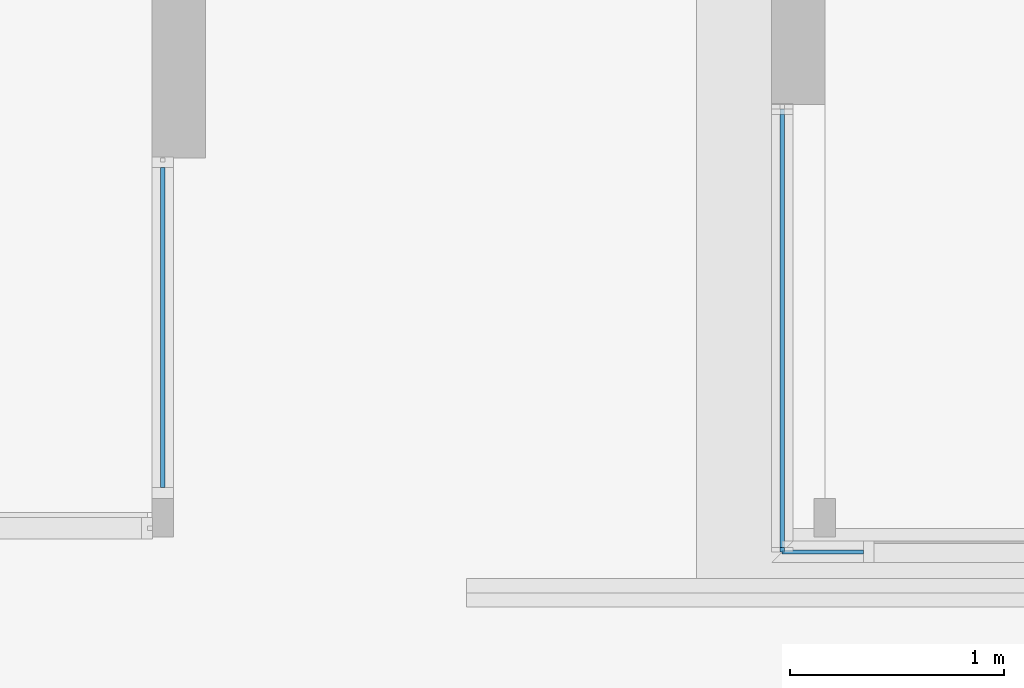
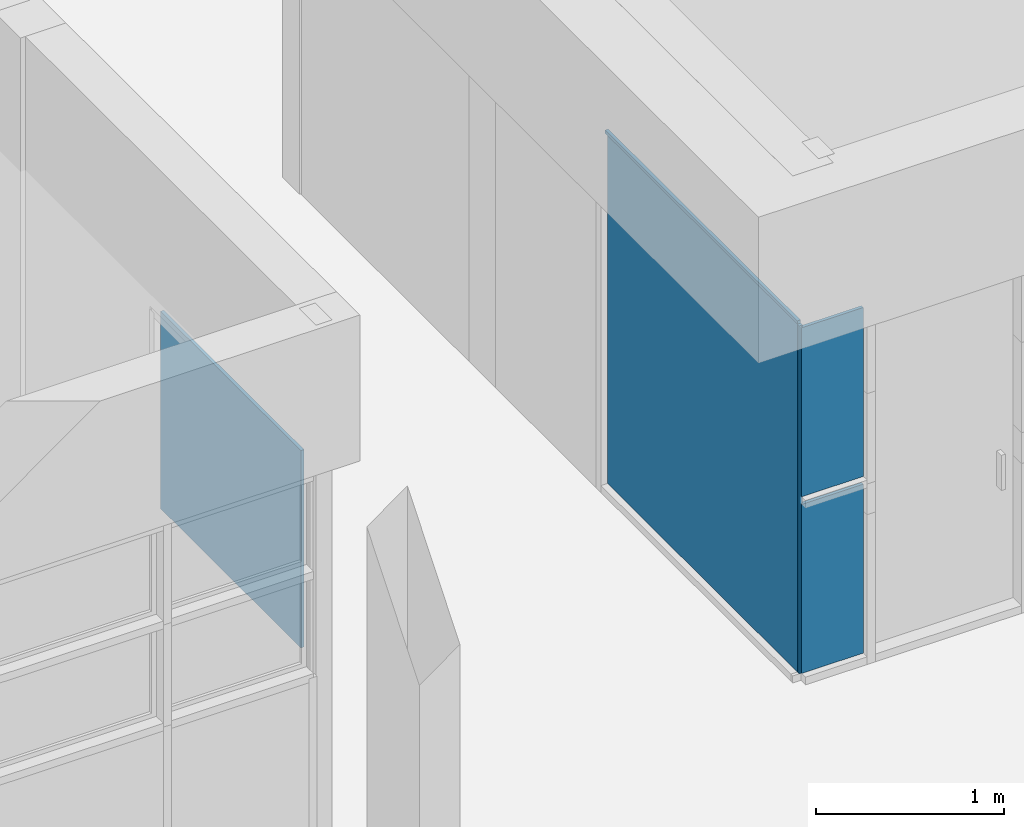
# One storey, part 30 of 117: 6 plates, 3 elements without a shape of their own.
"""IFC4 building model written with IfcOpenShell, lengths in metres."""

import ifcopenshell
import ifcopenshell.guid

model = None  # the IFC model being written
_history = None  # IfcOwnerHistory: only IFC2X3 demands one
_inside = {}  # id of a spatial element -> (the spatial element, [elements in it])
_under = {}  # id of a project, library or spatial element -> (it, [spatial elements below it])
_declared = {}  # id of a project -> (the project, [libraries it declares])
_typed = {}  # id of a type object -> (the type object, [elements of that type])
_made_of = {}  # id of a material, layer set ... -> (it, [elements and type objects made of it])


def new_model(schema):
    """Start an empty IFC model of exactly this schema.

    Asked for "IFC4X3", IfcOpenShell would pick the latest addendum, in which some entities
    have other attributes; the version numbers below select the first issue.
    IFC2X3 requires an IfcOwnerHistory on every rooted entity: one is made here for all.
    """
    global model, _history
    if schema == "IFC4X3":
        model = ifcopenshell.file(schema_version=(4, 3, 0, 0))
    else:
        model = ifcopenshell.file(schema=schema)
    _inside.clear()
    _under.clear()
    _declared.clear()
    _typed.clear()
    _made_of.clear()
    _history = None
    if model.schema == "IFC2X3":
        org = make("IfcOrganization", Name="unknown")
        user = make(
            "IfcPersonAndOrganization",
            ThePerson=make("IfcPerson", FamilyName="unknown"),
            TheOrganization=org,
        )
        app = make(
            "IfcApplication",
            ApplicationDeveloper=org,
            Version="unknown",
            ApplicationFullName="unknown",
            ApplicationIdentifier="unknown",
        )
        _history = make(
            "IfcOwnerHistory",
            OwningUser=user,
            OwningApplication=app,
            ChangeAction="ADDED",
            CreationDate=0,
        )
    return model


def make(cls, **values):
    """One entity of the class cls with the attributes given. An attribute that is None is left unset."""
    return model.create_entity(
        cls, **{name: value for name, value in values.items() if value is not None}
    )


def entity(cls, *values):
    """Any entity or typed value of the class cls, its attributes in the order of the schema. None: left unset."""
    e = model.create_entity(cls)
    for i, value in enumerate(values):
        if value is not None:
            e[i] = value
    return e


def rooted(cls, **values):
    """An entity with a GlobalId (a new one), such as an element, a storey or a relation."""
    return make(cls, GlobalId=ifcopenshell.guid.new(), OwnerHistory=_history, **values)


def si_unit(unit_type, name, prefix=None):
    """IfcSIUnit, for example si_unit("LENGTHUNIT", "METRE", prefix="MILLI")."""
    return make("IfcSIUnit", UnitType=unit_type, Prefix=prefix, Name=name)


def converted_unit(unit_type, name, factor, base, dimensions=None, offset=None):
    """IfcConversionBasedUnit, such as the inch: factor (a typed value) times the base unit."""
    return make(
        "IfcConversionBasedUnit"
        if offset is None
        else "IfcConversionBasedUnitWithOffset",
        ConversionOffset=offset,
        Dimensions=None
        if dimensions is None
        else entity("IfcDimensionalExponents", *dimensions),
        UnitType=unit_type,
        Name=name,
        ConversionFactor=make(
            "IfcMeasureWithUnit", ValueComponent=factor, UnitComponent=base
        ),
    )


def derived_unit(unit_type, elements):
    """IfcDerivedUnit: a product of units, each with its exponent."""
    return make(
        "IfcDerivedUnit",
        Elements=[
            make("IfcDerivedUnitElement", Unit=unit, Exponent=power)
            for unit, power in elements
        ],
        UnitType=unit_type,
    )


def assignment(units):
    """IfcUnitAssignment: the units of a project."""
    return None if units is None else make("IfcUnitAssignment", Units=units)


def point(xyz):
    """IfcCartesianPoint."""
    return None if xyz is None else make("IfcCartesianPoint", Coordinates=xyz)


def direction(xyz):
    """IfcDirection."""
    return None if xyz is None else make("IfcDirection", DirectionRatios=xyz)


def frame(location, z_axis=None, x_axis=None):
    """IfcAxis2Placement3D, a coordinate frame: its origin and axes. An axis left out is left unset."""
    return make(
        "IfcAxis2Placement3D",
        Location=point(location),
        Axis=direction(z_axis),
        RefDirection=direction(x_axis),
    )


def origin():
    """The frame at (0, 0, 0) with its axes left unset."""
    return frame((0.0, 0.0, 0.0))


def place(relative_to, where):
    """IfcLocalPlacement: puts the frame where relative to a parent placement (None: the world)."""
    return make(
        "IfcLocalPlacement", PlacementRelTo=relative_to, RelativePlacement=where
    )


def context(
    kind, dimensions, precision=None, world=None, true_north=None, identifier=None
):
    """IfcGeometricRepresentationContext, for example the 3D "Model" context."""
    return make(
        "IfcGeometricRepresentationContext",
        ContextIdentifier=identifier,
        ContextType=kind,
        CoordinateSpaceDimension=dimensions,
        Precision=precision,
        WorldCoordinateSystem=world,
        TrueNorth=true_north,
    )


def subcontext(parent, identifier, kind, view, scale=None):
    """IfcGeometricRepresentationSubContext, for example "Body" below "Model"."""
    return make(
        "IfcGeometricRepresentationSubContext",
        ContextIdentifier=identifier,
        ContextType=kind,
        ParentContext=parent,
        TargetScale=scale,
        TargetView=view,
    )


def project(units=None, contexts=None):
    """IfcProject with its units and contexts."""
    return rooted(
        "IfcProject",
        Name="project",
        RepresentationContexts=contexts,
        UnitsInContext=assignment(units),
    )


def spatial(cls, under=None, at=None, **own):
    """A site, building, storey or space (cls), placed at a placement, below another one or the project."""
    s = rooted(cls, ObjectPlacement=at, **own)
    if under is not None:
        _under.setdefault(under.id(), (under, []))[1].append(s)
    return s


def point_list(points):
    """IfcCartesianPointList2D or 3D."""
    cls = (
        "IfcCartesianPointList2D" if len(points[0]) == 2 else "IfcCartesianPointList3D"
    )
    return make(cls, CoordList=points)


def indexed_curve(points, segments=None, self_intersect=None):
    """IfcIndexedPolyCurve: lines and arcs through numbered points (the first is 1)."""
    return make(
        "IfcIndexedPolyCurve",
        Points=point_list(points),
        Segments=segments,
        SelfIntersect=self_intersect,
    )


def outline(outer, holes=None, kind="AREA"):
    """IfcArbitraryClosedProfileDef: a profile drawn as a closed curve; with holes, ...WithVoids."""
    if holes is None:
        return make("IfcArbitraryClosedProfileDef", ProfileType=kind, OuterCurve=outer)
    return make(
        "IfcArbitraryProfileDefWithVoids",
        ProfileType=kind,
        OuterCurve=outer,
        InnerCurves=holes,
    )


def extrude(swept, where, along, depth):
    """IfcExtrudedAreaSolid: the profile swept, set in the frame where, extruded along a direction by depth."""
    return make(
        "IfcExtrudedAreaSolid",
        SweptArea=swept,
        Position=where,
        ExtrudedDirection=direction(along),
        Depth=depth,
    )


def shape(context_of_items, identifier, shape_type, items):
    """IfcShapeRepresentation: the items that make up one representation, for example the "Body"."""
    return make(
        "IfcShapeRepresentation",
        ContextOfItems=context_of_items,
        RepresentationIdentifier=identifier,
        RepresentationType=shape_type,
        Items=items,
    )


def source(mapping_origin, context_of_items, identifier, shape_type, items):
    """IfcRepresentationMap: a shape defined once, which mapped items show again and again."""
    return make(
        "IfcRepresentationMap",
        MappingOrigin=mapping_origin,
        MappedRepresentation=shape(context_of_items, identifier, shape_type, items),
    )


def transform(
    local_origin,
    x_axis=None,
    y_axis=None,
    z_axis=None,
    scale=None,
    scale2=None,
    scale3=None,
    uniform=True,
):
    """IfcCartesianTransformationOperator3D, or its non-uniform kind. x_axis, y_axis, z_axis: its Axis1, 2, 3."""
    if uniform:
        return make(
            "IfcCartesianTransformationOperator3D",
            Axis1=direction(x_axis),
            Axis2=direction(y_axis),
            LocalOrigin=point(local_origin),
            Scale=scale,
            Axis3=direction(z_axis),
        )
    return make(
        "IfcCartesianTransformationOperator3DnonUniform",
        Axis1=direction(x_axis),
        Axis2=direction(y_axis),
        LocalOrigin=point(local_origin),
        Scale=scale,
        Axis3=direction(z_axis),
        Scale2=scale2,
        Scale3=scale3,
    )


def mapped(mapping_source, mapping_target):
    """IfcMappedItem: shows the shape of a source again, moved by a transform."""
    return make(
        "IfcMappedItem", MappingSource=mapping_source, MappingTarget=mapping_target
    )


def material(Name=None, Category=None):
    """IfcMaterial."""
    return make("IfcMaterial", Name=Name, Category=Category)


def made_of(thing, what):
    """Note that an element or type object is made of a material, layer set ...; save() writes the relation."""
    if what is not None:
        _made_of.setdefault(what.id(), (what, []))[1].append(thing)
    return thing


def type_object(cls, material=None, **own):
    """A type object (cls), such as IfcWallType, which elements share."""
    return made_of(rooted(cls, **own), material)


def type_shapes(of_type, sources):
    """Give a type object the sources (RepresentationMaps) that its elements show as mapped items."""
    of_type.RepresentationMaps = sources


def element(
    cls,
    number,
    at=None,
    inside=None,
    cuts=None,
    type_object=None,
    material=None,
    context=None,
    identifier="Body",
    shape_type=None,
    held_by="IfcProductDefinitionShape",
    body=None,
    shapes=None,
    **own,
):
    """One element of the class cls, such as IfcWall. Its Tag is "e" and its number.

    at: its placement. inside: the storey or other place that contains it. cuts: it is an
    opening in that element (IfcRelVoidsElement). A single representation is given by context,
    identifier, shape_type and body (its items); several are given by shapes. held_by: the class
    of the entity that holds the representations. save() writes the other relations.
    """
    e = rooted(cls, Tag="e%d" % number, ObjectPlacement=at, **own)
    if body is not None:
        shapes = [shape(context, identifier, shape_type, body)]
    if shapes is not None:
        e.Representation = make(held_by, Representations=shapes)
    if inside is not None:
        _inside.setdefault(inside.id(), (inside, []))[1].append(e)
    if cuts is not None:
        rooted(
            "IfcRelVoidsElement", RelatingBuildingElement=cuts, RelatedOpeningElement=e
        )
    if type_object is not None:
        _typed.setdefault(type_object.id(), (type_object, []))[1].append(e)
    return made_of(e, material)


def aggregate(whole, parts):
    """IfcRelAggregates: a whole, such as a stair, and the parts it consists of."""
    return rooted("IfcRelAggregates", RelatingObject=whole, RelatedObjects=parts)


def save(model, path):
    """Write the relations noted so far, then the file.

    IfcRelAggregates (storeys below a building ...), IfcRelContainedInSpatialStructure (elements
    in a storey), IfcRelDefinesByType, IfcRelAssociatesMaterial and IfcRelDeclares: one each for
    every whole, place, type object, material and project.
    """
    for whole, parts in _under.values():
        aggregate(whole, parts)
    for where, things in _inside.values():
        rooted(
            "IfcRelContainedInSpatialStructure",
            RelatedElements=things,
            RelatingStructure=where,
        )
    for kind, things in _typed.values():
        rooted("IfcRelDefinesByType", RelatedObjects=things, RelatingType=kind)
    for what, things in _made_of.values():
        rooted("IfcRelAssociatesMaterial", RelatedObjects=things, RelatingMaterial=what)
    for by, libraries in _declared.values():
        rooted("IfcRelDeclares", RelatingContext=by, RelatedDefinitions=libraries)
    model.write(path)


model = new_model("IFC4")

# Units and contexts
model_context = context("Model", 3, precision=1e-05, world=origin(), true_north=direction((6.123031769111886e-17, 1.0)))
body_context = subcontext(model_context, "Body", "Model", "MODEL_VIEW")
ifc_project = project(units=[si_unit("LENGTHUNIT", "METRE"), si_unit("AREAUNIT", "SQUARE_METRE"), si_unit("VOLUMEUNIT", "CUBIC_METRE"), converted_unit("PLANEANGLEUNIT", "DEGREE", entity("IfcRatioMeasure", 0.017453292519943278), si_unit("PLANEANGLEUNIT", "RADIAN"), dimensions=[0, 0, 0, 0, 0, 0, 0]), si_unit("MASSUNIT", "GRAM", prefix="KILO"), derived_unit("MASSDENSITYUNIT", [(si_unit("MASSUNIT", "GRAM", prefix="KILO"), 1), (si_unit("LENGTHUNIT", "METRE"), -3)]), derived_unit("MOMENTOFINERTIAUNIT", [(si_unit("LENGTHUNIT", "METRE"), 4)]), si_unit("TIMEUNIT", "SECOND"), si_unit("FREQUENCYUNIT", "HERTZ"), si_unit("THERMODYNAMICTEMPERATUREUNIT", "DEGREE_CELSIUS"), derived_unit("THERMALTRANSMITTANCEUNIT", [(si_unit("MASSUNIT", "GRAM", prefix="KILO"), 1), (si_unit("THERMODYNAMICTEMPERATUREUNIT", "KELVIN"), -1), (si_unit("TIMEUNIT", "SECOND"), -3)]), derived_unit("VOLUMETRICFLOWRATEUNIT", [(si_unit("LENGTHUNIT", "METRE"), 3), (si_unit("TIMEUNIT", "SECOND"), -1)]), derived_unit("MASSFLOWRATEUNIT", [(si_unit("MASSUNIT", "GRAM", prefix="KILO"), 1), (si_unit("TIMEUNIT", "SECOND"), -1)]), derived_unit("ROTATIONALFREQUENCYUNIT", [(si_unit("TIMEUNIT", "SECOND"), -1)]), si_unit("ELECTRICCURRENTUNIT", "AMPERE"), si_unit("ELECTRICVOLTAGEUNIT", "VOLT"), si_unit("POWERUNIT", "WATT"), si_unit("FORCEUNIT", "NEWTON", prefix="KILO"), si_unit("ILLUMINANCEUNIT", "LUX"), si_unit("LUMINOUSFLUXUNIT", "LUMEN"), si_unit("LUMINOUSINTENSITYUNIT", "CANDELA"), derived_unit("USERDEFINED", [(si_unit("MASSUNIT", "GRAM", prefix="KILO"), -1), (si_unit("LENGTHUNIT", "METRE"), -2), (si_unit("TIMEUNIT", "SECOND"), 3), (si_unit("LUMINOUSFLUXUNIT", "LUMEN"), 1)]), derived_unit("SOUNDPOWERUNIT", [(si_unit("MASSUNIT", "GRAM", prefix="KILO"), 1), (si_unit("LENGTHUNIT", "METRE"), 2), (si_unit("TIMEUNIT", "SECOND"), -3)]), derived_unit("SOUNDPRESSUREUNIT", [(si_unit("MASSUNIT", "GRAM", prefix="KILO"), 1), (si_unit("LENGTHUNIT", "METRE"), -1), (si_unit("TIMEUNIT", "SECOND"), -2)]), derived_unit("LINEARVELOCITYUNIT", [(si_unit("LENGTHUNIT", "METRE"), 1), (si_unit("TIMEUNIT", "SECOND"), -1)]), si_unit("PRESSUREUNIT", "PASCAL"), derived_unit("USERDEFINED", [(si_unit("LENGTHUNIT", "METRE"), -2), (si_unit("MASSUNIT", "GRAM", prefix="KILO"), 1), (si_unit("TIMEUNIT", "SECOND"), -2)]), derived_unit("LINEARFORCEUNIT", [(si_unit("MASSUNIT", "GRAM", prefix="KILO"), 1), (si_unit("LENGTHUNIT", "METRE"), 1), (si_unit("TIMEUNIT", "SECOND"), -2), (si_unit("LENGTHUNIT", "METRE"), -1)]), derived_unit("PLANARFORCEUNIT", [(si_unit("MASSUNIT", "GRAM", prefix="KILO"), 1), (si_unit("LENGTHUNIT", "METRE"), 1), (si_unit("TIMEUNIT", "SECOND"), -2), (si_unit("LENGTHUNIT", "METRE"), -2)])], contexts=[model_context])

# Site, building, storey
site_placement = place(None, origin())
site = spatial("IfcSite", under=ifc_project, at=site_placement, Name="Superficie", CompositionType="ELEMENT")
building_placement = place(site_placement, origin())
building = spatial("IfcBuilding", under=site, at=building_placement, CompositionType="ELEMENT")
storey_placement = place(building_placement, origin())
storey = spatial("IfcBuildingStorey", under=building, at=storey_placement, Name="Nivel 0", CompositionType="ELEMENT", Elevation=0.0)

# Curtain wall, plates
curtain_wall_type = type_object("IfcCurtainWallType", Name="Muro cortina:Muro cortina - simple", PredefinedType="NOTDEFINED")
curtain_wall_1_placement = place(storey_placement, origin())
curtain_wall_1 = element("IfcCurtainWall", 1, at=curtain_wall_1_placement, inside=storey, type_object=curtain_wall_type, Name="Muro cortina:Muro cortina - simple", ObjectType="Muro cortina:Muro cortina - simple", PredefinedType="NOTDEFINED")
ifc_material = material(Name="Cristal", Category="Vidrio")
plate_type_1 = type_object("IfcPlateType", Name="Panel de sistema:Acristalado", PredefinedType="CURTAIN_PANEL", material=ifc_material)
shared_shape_1 = source(origin(), body_context, "Body", "SweptSolid", [
    extrude(outline(indexed_curve([(-0.01, -1.012500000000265), (0.01, -1.0125000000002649), (0.01, 1.0125000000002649), (-0.01, 1.012500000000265), (-0.01, -1.012500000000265)], self_intersect=False)), frame((0.0, 0.0, 0.0), z_axis=(0.0, 0.0, 1.0), x_axis=(0.0, 1.0, 0.0)), (0.0, 0.0, 1.0), 2.2649999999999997),
])
type_shapes(plate_type_1, [shared_shape_1])
plate_1_placement = place(curtain_wall_1_placement, frame((-15.448200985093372, -0.7316707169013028, 0.04499999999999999), z_axis=(0.0, 0.0, 1.0), x_axis=(0.0, -1.0, 0.0)))
plate_1 = element("IfcPlate", 2, at=plate_1_placement, type_object=plate_type_1, material=ifc_material, Name="Panel de sistema:Acristalado", ObjectType="Panel de sistema:Acristalado", PredefinedType="CURTAIN_PANEL", context=body_context, shape_type="MappedRepresentation", body=[
    mapped(shared_shape_1, transform((0.0, 0.0, 0.0), scale=1.0)),
])
plate_type_2 = type_object("IfcPlateType", Name="Panel de sistema:Acristalado", PredefinedType="CURTAIN_PANEL", material=ifc_material)
shared_shape_2 = source(origin(), body_context, "Body", "SweptSolid", [
    extrude(outline(indexed_curve([(-0.01, -0.010000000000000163), (0.01, -0.010000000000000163), (0.01, 0.010000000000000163), (-0.01, 0.010000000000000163), (-0.01, -0.010000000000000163)], self_intersect=False)), frame((0.0, 0.0, 0.0), z_axis=(0.0, 0.0, 1.0), x_axis=(0.0, 1.0, 0.0)), (0.0, 0.0, 1.0), 2.2649999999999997),
])
type_shapes(plate_type_2, [shared_shape_2])
plate_2_placement = place(curtain_wall_1_placement, frame((-15.448200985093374, -1.754170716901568, 0.04499999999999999), z_axis=(0.0, 0.0, 1.0), x_axis=(0.0, -1.0, 0.0)))
plate_2 = element("IfcPlate", 3, at=plate_2_placement, type_object=plate_type_2, material=ifc_material, Name="Panel de sistema:Acristalado", ObjectType="Panel de sistema:Acristalado", PredefinedType="CURTAIN_PANEL", context=body_context, shape_type="MappedRepresentation", body=[
    mapped(shared_shape_2, transform((0.0, 0.0, 0.0), scale=1.0)),
])
plate_type_3 = type_object("IfcPlateType", Name="Panel de sistema:Acristalado", PredefinedType="CURTAIN_PANEL", material=ifc_material)
shared_shape_3 = source(origin(), body_context, "Body", "SweptSolid", [
    extrude(outline(indexed_curve([(-0.01, -1.0250000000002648), (0.01, -1.0250000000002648), (0.01, 1.0250000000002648), (-0.01, 1.0250000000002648), (-0.01, -1.0250000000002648)], self_intersect=False)), frame((0.0, 0.0, 0.0), z_axis=(0.0, 0.0, 1.0), x_axis=(0.0, 1.0, 0.0)), (0.0, 0.0, 1.0), 0.020000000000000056),
])
type_shapes(plate_type_3, [shared_shape_3])
plate_3_placement = place(curtain_wall_1_placement, frame((-15.448200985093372, -0.7191707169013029, 2.3099999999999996), z_axis=(0.0, 0.0, 1.0), x_axis=(0.0, -1.0, 0.0)))
plate_3 = element("IfcPlate", 4, at=plate_3_placement, type_object=plate_type_3, material=ifc_material, Name="Panel de sistema:Acristalado", ObjectType="Panel de sistema:Acristalado", PredefinedType="CURTAIN_PANEL", context=body_context, shape_type="MappedRepresentation", body=[
    mapped(shared_shape_3, transform((0.0, 0.0, 0.0), scale=1.0)),
])
aggregate(curtain_wall_1, [plate_1, plate_2, plate_3])

# Curtain wall, plate
curtain_wall_2_placement = place(storey_placement, origin())
curtain_wall_2 = element("IfcCurtainWall", 5, at=curtain_wall_2_placement, inside=storey, type_object=curtain_wall_type, Name="Muro cortina:Muro cortina - simple", ObjectType="Muro cortina:Muro cortina - simple", PredefinedType="NOTDEFINED")
plate_type_4 = type_object("IfcPlateType", Name="Panel de sistema:Acristalado", PredefinedType="CURTAIN_PANEL", material=ifc_material)
shared_shape_4 = source(origin(), body_context, "Body", "SweptSolid", [
    extrude(outline(indexed_curve([(-0.01, -0.7481413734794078), (0.01, -0.7481413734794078), (0.01, 0.7481413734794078), (-0.01, 0.7481413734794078), (-0.01, -0.7481413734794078)], self_intersect=False)), frame((0.0, 0.0, 0.0), z_axis=(0.0, 0.0, 1.0), x_axis=(0.0, 1.0, 0.0)), (0.0, 0.0, 1.0), 1.2849999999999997),
])
type_shapes(plate_type_4, [shared_shape_4])
plate_4_placement = place(curtain_wall_2_placement, frame((-18.343200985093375, -0.7160293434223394, 1.0450000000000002), z_axis=(0.0, 0.0, 1.0), x_axis=(0.0, 1.0, 0.0)))
plate_4 = element("IfcPlate", 6, at=plate_4_placement, type_object=plate_type_4, material=ifc_material, Name="Panel de sistema:Acristalado", ObjectType="Panel de sistema:Acristalado", PredefinedType="CURTAIN_PANEL", context=body_context, shape_type="MappedRepresentation", body=[
    mapped(shared_shape_4, transform((0.0, 0.0, 0.0), scale=1.0)),
])
aggregate(curtain_wall_2, [plate_4])

# Curtain wall, plates
curtain_wall_3_placement = place(storey_placement, origin())
curtain_wall_3 = element("IfcCurtainWall", 7, at=curtain_wall_3_placement, inside=storey, type_object=curtain_wall_type, Name="Muro cortina:Muro cortina - simple", ObjectType="Muro cortina:Muro cortina - simple", PredefinedType="NOTDEFINED")
plate_type_5 = type_object("IfcPlateType", Name="Panel de sistema:Acristalado", PredefinedType="CURTAIN_PANEL", material=ifc_material)
shared_shape_5 = source(origin(), body_context, "Body", "SweptSolid", [
    extrude(outline(indexed_curve([(-0.675, -0.1900000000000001), (0.25000000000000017, -0.1900000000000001), (0.42500000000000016, -0.1900000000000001), (0.42500000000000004, 0.1900000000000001), (0.25, 0.1900000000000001), (-0.675, 0.1900000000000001), (-0.675, -0.1900000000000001)], self_intersect=False)), frame((0.0, -0.01, 0.675), z_axis=(0.0, 1.0, 0.0), x_axis=(0.0, 0.0, 1.0)), (0.0, 0.0, 1.0), 0.02),
])
type_shapes(plate_type_5, [shared_shape_5])
plate_5_placement = place(curtain_wall_3_placement, frame((-15.258200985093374, -1.7641707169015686, 0.05)))
plate_5 = element("IfcPlate", 8, at=plate_5_placement, type_object=plate_type_5, material=ifc_material, Name="Panel de sistema:Acristalado", ObjectType="Panel de sistema:Acristalado", PredefinedType="CURTAIN_PANEL", context=body_context, shape_type="MappedRepresentation", body=[
    mapped(shared_shape_5, transform((0.0, 0.0, 0.0), scale=1.0)),
])
plate_type_6 = type_object("IfcPlateType", Name="Panel de sistema:Acristalado", PredefinedType="CURTAIN_PANEL", material=ifc_material)
shared_shape_6 = source(origin(), body_context, "Body", "SweptSolid", [
    extrude(outline(indexed_curve([(-0.5541666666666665, -0.1900000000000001), (0.008333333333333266, -0.1900000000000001), (0.5458333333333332, -0.1900000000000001), (0.5458333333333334, 0.1900000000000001), (0.008333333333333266, 0.1900000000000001), (-0.5541666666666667, 0.1900000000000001), (-0.5541666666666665, -0.1900000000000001)], self_intersect=False)), frame((0.0, -0.01, 0.5541666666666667), z_axis=(0.0, 1.0, 0.0), x_axis=(0.0, 0.0, 1.0)), (0.0, 0.0, 1.0), 0.02),
])
type_shapes(plate_type_6, [shared_shape_6])
plate_6_placement = place(curtain_wall_3_placement, frame((-15.258200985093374, -1.7641707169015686, 1.2000000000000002)))
plate_6 = element("IfcPlate", 9, at=plate_6_placement, type_object=plate_type_6, material=ifc_material, Name="Panel de sistema:Acristalado", ObjectType="Panel de sistema:Acristalado", PredefinedType="CURTAIN_PANEL", context=body_context, shape_type="MappedRepresentation", body=[
    mapped(shared_shape_6, transform((0.0, 0.0, 0.0), scale=1.0)),
])
aggregate(curtain_wall_3, [plate_5, plate_6])

save(model, "model.ifc")
